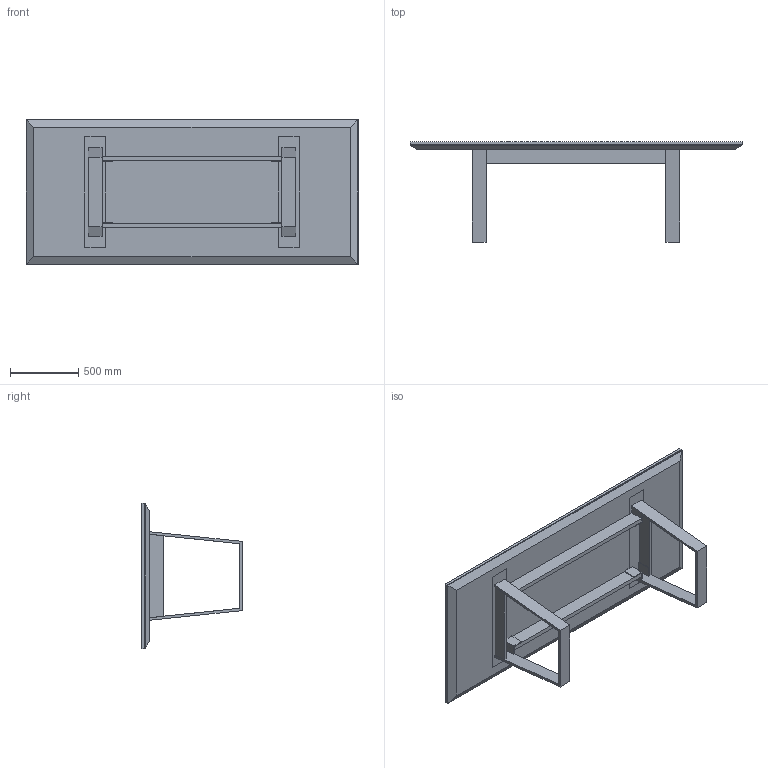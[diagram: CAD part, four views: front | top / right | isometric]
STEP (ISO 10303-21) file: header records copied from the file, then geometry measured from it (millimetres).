
FILE_DESCRIPTION(/* description */ ('','CAx-IF Rec.Pracs.---Representation and Presentation of Product Manufacturing Information (PMI)---4.0---2014-10-13'),/* implementation_level */ '2;1');
FILE_NAME(/* name */ 'TABLE_IMPRESS 1.stp',/* time_stamp */ '2024-12-07T16:04:50-05:00',/* author */ ('mbowman'),/* organization */ (''),/* preprocessor_version */ 'ST-DEVELOPER v19.2',/* originating_system */ 'Autodesk Inventor 2023',/* authorisation */ '');
FILE_SCHEMA (('AP242_MANAGED_MODEL_BASED_3D_ENGINEERING_MIM_LF { 1 0 10303 442 1 1 4 }'));
Length unit declared in the file: inch
Products named in the file (5): IMPRESS^TABLE 1_42x96 RECT-SOLID ASSEMBLY (KEELS); IMPRESS^TABLE 1_42x96 RECT-PARTS SOLID; IMPRESS^TABLE 1_ANGLE LOOP BASE-KEEL PLATES; IMPRESS^TABLE 1_42x96 RECT-KEEL SOLID; IMPRESS^TABLE 1_42x96 RECT-KEEL END SOLID
Assembly tree (7 placements, depth 2):
  IMPRESS^TABLE 1_42x96 RECT-SOLID ASSEMBLY (KEELS)
    IMPRESS^TABLE 1_42x96 RECT-PARTS SOLID
    IMPRESS^TABLE 1_ANGLE LOOP BASE-KEEL PLATES  x2
    IMPRESS^TABLE 1_42x96 RECT-KEEL SOLID  x2
    IMPRESS^TABLE 1_42x96 RECT-KEEL END SOLID  x2
Bounding box: 2438.4 x 736.6 x 1066.8 mm (x, y, z)
Volume: 160408253.7 mm3; surface area: 13225055.6 mm2
Topology: 8 solids, 8 shells, 118 faces, 300 edges, 196 vertices
Faces by surface type: plane 118
Entity records: 2890 total; most frequent: CARTESIAN_POINT 602, DIRECTION 378, ORIENTED_EDGE 356, LINE 178, VECTOR 178, EDGE_CURVE 178, STYLED_ITEM 132, VERTEX_POINT 116
